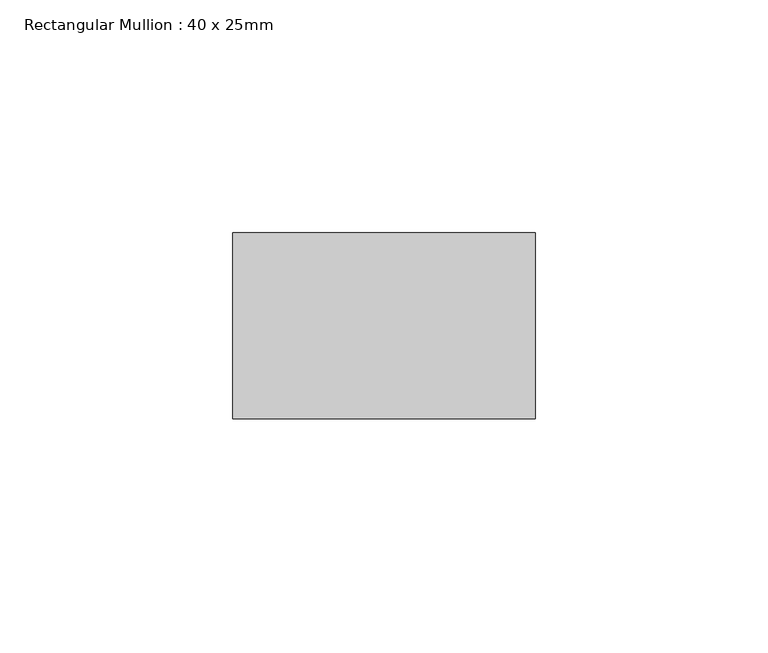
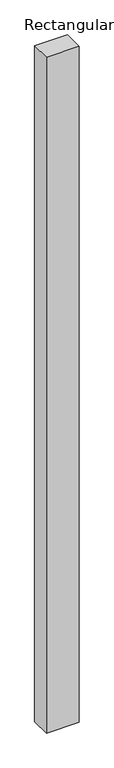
"""IFC4 building model written with IfcOpenShell, lengths in millimetres: member geometry, Rectangular Mullion : 40 x 25mm."""

import ifcopenshell
import ifcopenshell.guid

model = None  # the IFC model being written
_history = None  # IfcOwnerHistory: only IFC2X3 demands one
_inside = {}  # id of a spatial element -> (the spatial element, [elements in it])
_under = {}  # id of a project, library or spatial element -> (it, [spatial elements below it])
_declared = {}  # id of a project -> (the project, [libraries it declares])
_typed = {}  # id of a type object -> (the type object, [elements of that type])
_made_of = {}  # id of a material, layer set ... -> (it, [elements and type objects made of it])


def new_model(schema):
    """Start an empty IFC model of exactly this schema.

    Asked for "IFC4X3", IfcOpenShell would pick the latest addendum, in which some entities
    have other attributes; the version numbers below select the first issue.
    IFC2X3 requires an IfcOwnerHistory on every rooted entity: one is made here for all.
    """
    global model, _history
    if schema == "IFC4X3":
        model = ifcopenshell.file(schema_version=(4, 3, 0, 0))
    else:
        model = ifcopenshell.file(schema=schema)
    _inside.clear()
    _under.clear()
    _declared.clear()
    _typed.clear()
    _made_of.clear()
    _history = None
    if model.schema == "IFC2X3":
        org = make("IfcOrganization", Name="unknown")
        user = make(
            "IfcPersonAndOrganization",
            ThePerson=make("IfcPerson", FamilyName="unknown"),
            TheOrganization=org,
        )
        app = make(
            "IfcApplication",
            ApplicationDeveloper=org,
            Version="unknown",
            ApplicationFullName="unknown",
            ApplicationIdentifier="unknown",
        )
        _history = make(
            "IfcOwnerHistory",
            OwningUser=user,
            OwningApplication=app,
            ChangeAction="ADDED",
            CreationDate=0,
        )
    return model


def make(cls, **values):
    """One entity of the class cls with the attributes given. An attribute that is None is left unset."""
    return model.create_entity(
        cls, **{name: value for name, value in values.items() if value is not None}
    )


def rooted(cls, **values):
    """An entity with a GlobalId (a new one), such as an element, a storey or a relation."""
    return make(cls, GlobalId=ifcopenshell.guid.new(), OwnerHistory=_history, **values)


def si_unit(unit_type, name, prefix=None):
    """IfcSIUnit, for example si_unit("LENGTHUNIT", "METRE", prefix="MILLI")."""
    return make("IfcSIUnit", UnitType=unit_type, Prefix=prefix, Name=name)


def assignment(units):
    """IfcUnitAssignment: the units of a project."""
    return None if units is None else make("IfcUnitAssignment", Units=units)


def point(xyz):
    """IfcCartesianPoint."""
    return None if xyz is None else make("IfcCartesianPoint", Coordinates=xyz)


def direction(xyz):
    """IfcDirection."""
    return None if xyz is None else make("IfcDirection", DirectionRatios=xyz)


def frame(location, z_axis=None, x_axis=None):
    """IfcAxis2Placement3D, a coordinate frame: its origin and axes. An axis left out is left unset."""
    return make(
        "IfcAxis2Placement3D",
        Location=point(location),
        Axis=direction(z_axis),
        RefDirection=direction(x_axis),
    )


def origin():
    """The frame at (0, 0, 0) with its axes left unset."""
    return frame((0.0, 0.0, 0.0))


def place(relative_to, where):
    """IfcLocalPlacement: puts the frame where relative to a parent placement (None: the world)."""
    return make(
        "IfcLocalPlacement", PlacementRelTo=relative_to, RelativePlacement=where
    )


def context(
    kind, dimensions, precision=None, world=None, true_north=None, identifier=None
):
    """IfcGeometricRepresentationContext, for example the 3D "Model" context."""
    return make(
        "IfcGeometricRepresentationContext",
        ContextIdentifier=identifier,
        ContextType=kind,
        CoordinateSpaceDimension=dimensions,
        Precision=precision,
        WorldCoordinateSystem=world,
        TrueNorth=true_north,
    )


def project(units=None, contexts=None):
    """IfcProject with its units and contexts."""
    return rooted(
        "IfcProject",
        Name="project",
        RepresentationContexts=contexts,
        UnitsInContext=assignment(units),
    )


def spatial(cls, under=None, at=None, **own):
    """A site, building, storey or space (cls), placed at a placement, below another one or the project."""
    s = rooted(cls, ObjectPlacement=at, **own)
    if under is not None:
        _under.setdefault(under.id(), (under, []))[1].append(s)
    return s


def polyline(points):
    """IfcPolyline through the points."""
    return make("IfcPolyline", Points=[point(p) for p in points])


def outline(outer, holes=None, kind="AREA"):
    """IfcArbitraryClosedProfileDef: a profile drawn as a closed curve; with holes, ...WithVoids."""
    if holes is None:
        return make("IfcArbitraryClosedProfileDef", ProfileType=kind, OuterCurve=outer)
    return make(
        "IfcArbitraryProfileDefWithVoids",
        ProfileType=kind,
        OuterCurve=outer,
        InnerCurves=holes,
    )


def extrude(swept, where, along, depth):
    """IfcExtrudedAreaSolid: the profile swept, set in the frame where, extruded along a direction by depth."""
    return make(
        "IfcExtrudedAreaSolid",
        SweptArea=swept,
        Position=where,
        ExtrudedDirection=direction(along),
        Depth=depth,
    )


def shape(context_of_items, identifier, shape_type, items):
    """IfcShapeRepresentation: the items that make up one representation, for example the "Body"."""
    return make(
        "IfcShapeRepresentation",
        ContextOfItems=context_of_items,
        RepresentationIdentifier=identifier,
        RepresentationType=shape_type,
        Items=items,
    )


def source(mapping_origin, context_of_items, identifier, shape_type, items):
    """IfcRepresentationMap: a shape defined once, which mapped items show again and again."""
    return make(
        "IfcRepresentationMap",
        MappingOrigin=mapping_origin,
        MappedRepresentation=shape(context_of_items, identifier, shape_type, items),
    )


def transform(
    local_origin,
    x_axis=None,
    y_axis=None,
    z_axis=None,
    scale=None,
    scale2=None,
    scale3=None,
    uniform=True,
):
    """IfcCartesianTransformationOperator3D, or its non-uniform kind. x_axis, y_axis, z_axis: its Axis1, 2, 3."""
    if uniform:
        return make(
            "IfcCartesianTransformationOperator3D",
            Axis1=direction(x_axis),
            Axis2=direction(y_axis),
            LocalOrigin=point(local_origin),
            Scale=scale,
            Axis3=direction(z_axis),
        )
    return make(
        "IfcCartesianTransformationOperator3DnonUniform",
        Axis1=direction(x_axis),
        Axis2=direction(y_axis),
        LocalOrigin=point(local_origin),
        Scale=scale,
        Axis3=direction(z_axis),
        Scale2=scale2,
        Scale3=scale3,
    )


def mapped(mapping_source, mapping_target):
    """IfcMappedItem: shows the shape of a source again, moved by a transform."""
    return make(
        "IfcMappedItem", MappingSource=mapping_source, MappingTarget=mapping_target
    )


def made_of(thing, what):
    """Note that an element or type object is made of a material, layer set ...; save() writes the relation."""
    if what is not None:
        _made_of.setdefault(what.id(), (what, []))[1].append(thing)
    return thing


def element(
    cls,
    number,
    at=None,
    inside=None,
    cuts=None,
    type_object=None,
    material=None,
    context=None,
    identifier="Body",
    shape_type=None,
    held_by="IfcProductDefinitionShape",
    body=None,
    shapes=None,
    **own,
):
    """One element of the class cls, such as IfcWall. Its Tag is "e" and its number.

    at: its placement. inside: the storey or other place that contains it. cuts: it is an
    opening in that element (IfcRelVoidsElement). A single representation is given by context,
    identifier, shape_type and body (its items); several are given by shapes. held_by: the class
    of the entity that holds the representations. save() writes the other relations.
    """
    e = rooted(cls, Tag="e%d" % number, ObjectPlacement=at, **own)
    if body is not None:
        shapes = [shape(context, identifier, shape_type, body)]
    if shapes is not None:
        e.Representation = make(held_by, Representations=shapes)
    if inside is not None:
        _inside.setdefault(inside.id(), (inside, []))[1].append(e)
    if cuts is not None:
        rooted(
            "IfcRelVoidsElement", RelatingBuildingElement=cuts, RelatedOpeningElement=e
        )
    if type_object is not None:
        _typed.setdefault(type_object.id(), (type_object, []))[1].append(e)
    return made_of(e, material)


def aggregate(whole, parts):
    """IfcRelAggregates: a whole, such as a stair, and the parts it consists of."""
    return rooted("IfcRelAggregates", RelatingObject=whole, RelatedObjects=parts)


def save(model, path):
    """Write the relations noted so far, then the file.

    IfcRelAggregates (storeys below a building ...), IfcRelContainedInSpatialStructure (elements
    in a storey), IfcRelDefinesByType, IfcRelAssociatesMaterial and IfcRelDeclares: one each for
    every whole, place, type object, material and project.
    """
    for whole, parts in _under.values():
        aggregate(whole, parts)
    for where, things in _inside.values():
        rooted(
            "IfcRelContainedInSpatialStructure",
            RelatedElements=things,
            RelatingStructure=where,
        )
    for kind, things in _typed.values():
        rooted("IfcRelDefinesByType", RelatedObjects=things, RelatingType=kind)
    for what, things in _made_of.values():
        rooted("IfcRelAssociatesMaterial", RelatedObjects=things, RelatingMaterial=what)
    for by, libraries in _declared.values():
        rooted("IfcRelDeclares", RelatingContext=by, RelatedDefinitions=libraries)
    model.write(path)


def rectangular_mullion_40_x_25mm_10827875(model_context):
    return source(origin(), model_context, "Body", "SweptSolid", [
        extrude(outline(polyline([(0.0, -20.0), (0.0, -60.0), (-65.0, -60.0), (-65.0, -20.0), (0.0, -20.0)])), frame((0.0, 0.0, -1420.0793869), z_axis=(0.0, 0.0, 1.0), x_axis=(1.0, 0.0, 0.0)), (0.0, 0.0, 1.0), 1420.0793869),
    ])


if __name__ == "__main__":
    model = new_model("IFC4")
    model_context = context("Model", 3, world=origin())
    ifc_project = project(units=[si_unit("LENGTHUNIT", "METRE", prefix="MILLI")], contexts=[model_context])
    site = spatial("IfcSite", under=ifc_project)
    building = spatial("IfcBuilding", under=site)
    placement = place(None, origin())
    rectangular_mullion_40_x_25mm_shape = rectangular_mullion_40_x_25mm_10827875(model_context)
    element("IfcMember", 1, ObjectType="Rectangular Mullion : 40 x 25mm", at=placement, inside=building, context=model_context, shape_type="MappedRepresentation", body=[
        mapped(rectangular_mullion_40_x_25mm_shape, transform((0.0, 0.0, 0.0), x_axis=(1.0, 0.0, 0.0), y_axis=(0.0, 1.0, 0.0), z_axis=(0.0, 0.0, 1.0))),
    ])
    save(model, "model.ifc")
